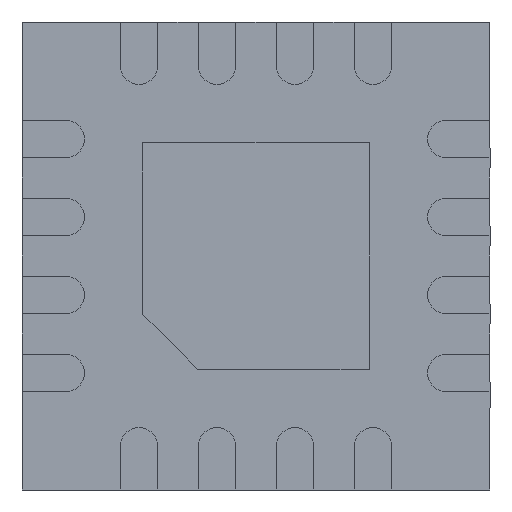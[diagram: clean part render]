
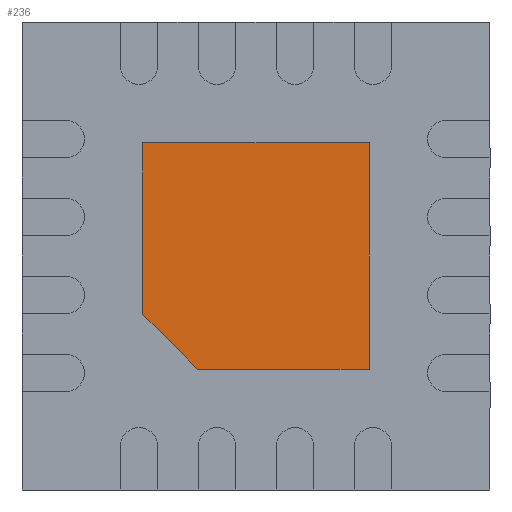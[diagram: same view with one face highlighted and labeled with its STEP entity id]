
A CAD part, front view. The second image highlights one B-rep face of the part: STEP entity #236.
In plain terms, the highlighted planar face has unit normal (0, -1, 0).
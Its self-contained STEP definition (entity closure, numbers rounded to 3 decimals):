
#150 = VERTEX_POINT ( 'NONE', #6405 ) ;
#236 = ADVANCED_FACE ( 'NONE', ( #2378 ), #6588, .T. ) ;
#354 = CARTESIAN_POINT ( 'NONE',  ( 0.725, 0., 0.725 ) ) ;
#367 = VERTEX_POINT ( 'NONE', #5076 ) ;
#372 = EDGE_LOOP ( 'NONE', ( #6976, #8529, #7421, #4538, #6967 ) ) ;
#586 = DIRECTION ( 'NONE',  ( 0., -1., 0. ) ) ;
#661 = LINE ( 'NONE', #3475, #7814 ) ;
#794 = EDGE_CURVE ( 'NONE', #3523, #8751, #661, .T. ) ;
#1568 = CARTESIAN_POINT ( 'NONE',  ( 0.725, 0., -0.725 ) ) ;
#1901 = CARTESIAN_POINT ( 'NONE',  ( 0., 0., 0. ) ) ;
#2378 = FACE_OUTER_BOUND ( 'NONE', #372, .T. ) ;
#2650 = VECTOR ( 'NONE', #8987, 1000. ) ;
#2745 = CARTESIAN_POINT ( 'NONE',  ( -0.375, 0., -0.725 ) ) ;
#2884 = VECTOR ( 'NONE', #6775, 1000. ) ;
#3376 = EDGE_CURVE ( 'NONE', #367, #150, #4440, .T. ) ;
#3475 = CARTESIAN_POINT ( 'NONE',  ( 0.725, 0., -0.725 ) ) ;
#3523 = VERTEX_POINT ( 'NONE', #2745 ) ;
#3741 = EDGE_CURVE ( 'NONE', #8751, #367, #5755, .T. ) ;
#4310 = DIRECTION ( 'NONE',  ( 0.707, 0., -0.707 ) ) ;
#4440 = LINE ( 'NONE', #354, #2650 ) ;
#4470 = DIRECTION ( 'NONE',  ( 0., 0., 1. ) ) ;
#4538 = ORIENTED_EDGE ( 'NONE', *, *, #3741, .T. ) ;
#4908 = DIRECTION ( 'NONE',  ( 1., 0., 0. ) ) ;
#5076 = CARTESIAN_POINT ( 'NONE',  ( 0.725, 0., 0.725 ) ) ;
#5600 = EDGE_CURVE ( 'NONE', #7620, #3523, #8017, .T. ) ;
#5755 = LINE ( 'NONE', #1568, #7426 ) ;
#5763 = CARTESIAN_POINT ( 'NONE',  ( -0.375, 0., -0.725 ) ) ;
#6050 = CARTESIAN_POINT ( 'NONE',  ( -0.725, 0., -0.375 ) ) ;
#6115 = VECTOR ( 'NONE', #4310, 1000. ) ;
#6405 = CARTESIAN_POINT ( 'NONE',  ( -0.725, 0., 0.725 ) ) ;
#6588 = PLANE ( 'NONE',  #8124 ) ;
#6775 = DIRECTION ( 'NONE',  ( 0., 0., -1. ) ) ;
#6967 = ORIENTED_EDGE ( 'NONE', *, *, #3376, .T. ) ;
#6976 = ORIENTED_EDGE ( 'NONE', *, *, #7095, .T. ) ;
#7041 = CARTESIAN_POINT ( 'NONE',  ( 0.725, 0., -0.725 ) ) ;
#7095 = EDGE_CURVE ( 'NONE', #150, #7620, #7790, .T. ) ;
#7421 = ORIENTED_EDGE ( 'NONE', *, *, #794, .T. ) ;
#7426 = VECTOR ( 'NONE', #4470, 1000. ) ;
#7490 = CARTESIAN_POINT ( 'NONE',  ( -0.725, 0., -0.375 ) ) ;
#7620 = VERTEX_POINT ( 'NONE', #7490 ) ;
#7790 = LINE ( 'NONE', #6050, #2884 ) ;
#7814 = VECTOR ( 'NONE', #4908, 1000. ) ;
#8017 = LINE ( 'NONE', #5763, #6115 ) ;
#8124 = AXIS2_PLACEMENT_3D ( 'NONE', #1901, #586, #9105 ) ;
#8529 = ORIENTED_EDGE ( 'NONE', *, *, #5600, .T. ) ;
#8751 = VERTEX_POINT ( 'NONE', #7041 ) ;
#8987 = DIRECTION ( 'NONE',  ( -1., 0., 0. ) ) ;
#9105 = DIRECTION ( 'NONE',  ( 0., 0., -1. ) ) ;
